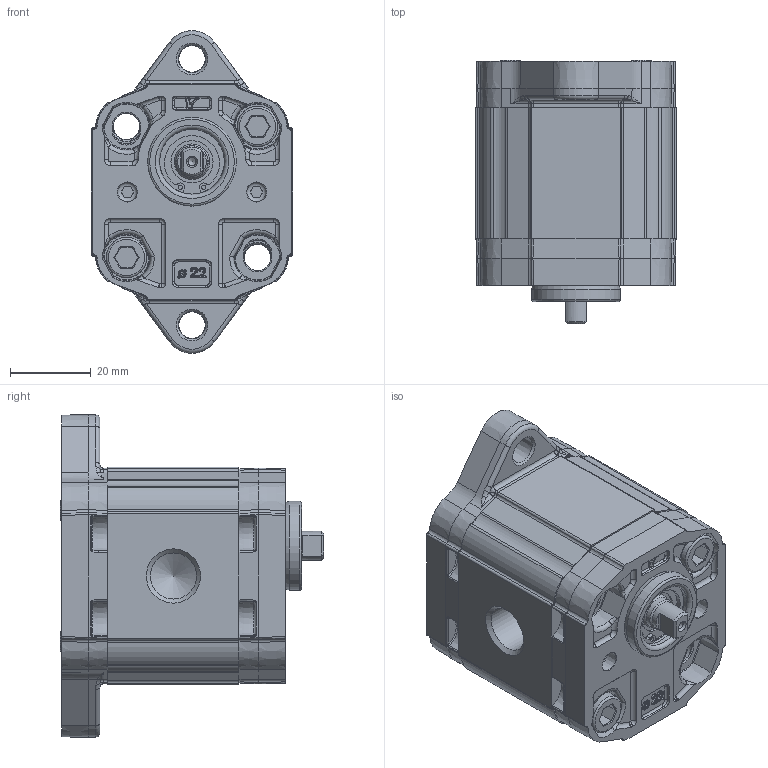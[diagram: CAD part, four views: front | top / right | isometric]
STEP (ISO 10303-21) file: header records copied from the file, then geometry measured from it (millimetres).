
FILE_DESCRIPTION(/* description */ ('Unknown'),/* implementation_level */ '2;1');
FILE_NAME(/* name */ 'X0T0521BBBA',/* time_stamp */ '2026-05-25T17:03:08+02:00',/* author */ ('Unknown'),/* organization */ ('Unknown'),/* preprocessor_version */ 'ST-DEVELOPER v16.7',/* originating_system */ 'Solid Edge',/* authorisation */ 'Unknown');
FILE_SCHEMA (('TECHNICAL_DATA_PACKAGING','AUTOMOTIVE_DESIGN {1 0 10303 214 3 1 1}'));
Products named in the file (5): X0T0521BBBA; X0T21; 0B; X0BBH32,5; XT017-A
Assembly tree (4 placements, depth 2):
  X0T0521BBBA
    X0T21
    0B
    X0BBH32,5
    XT017-A
Bounding box: 50 x 65.3 x 79.95 mm (x, y, z)
Volume: 122801.6 mm3; surface area: 37124.5 mm2
Topology: 6 solids, 6 shells, 1300 faces, 3248 edges, 1949 vertices
Faces by surface type: cylinder 412, plane 336, bspline 231, cone 182, torus 101, sphere 38
Full cylindrical faces by diameter (mm): 1.053 x2, 2 x2, 6 x6, 6.5 x2, 6.511 x1, 6.518 x5, 6.545 x2, 7.16 x2, 7.5 x2, 7.92 x2, 8 x2, 9.318 x1, 10 x2, 10.445 x1, 11 x1, 11.445 x2, 13 x1, 14 x2, 16 x1, 16.2 x1, 16.8 x1, 22 x2
Entity records: 70115 total; most frequent: CARTESIAN_POINT 32556, ORIENTED_EDGE 6016, DIRECTION 5727, EDGE_CURVE 3008, AXIS2_PLACEMENT_3D 2380, VERTEX_POINT 1887, FACE_BOUND 1517, EDGE_LOOP 1513
